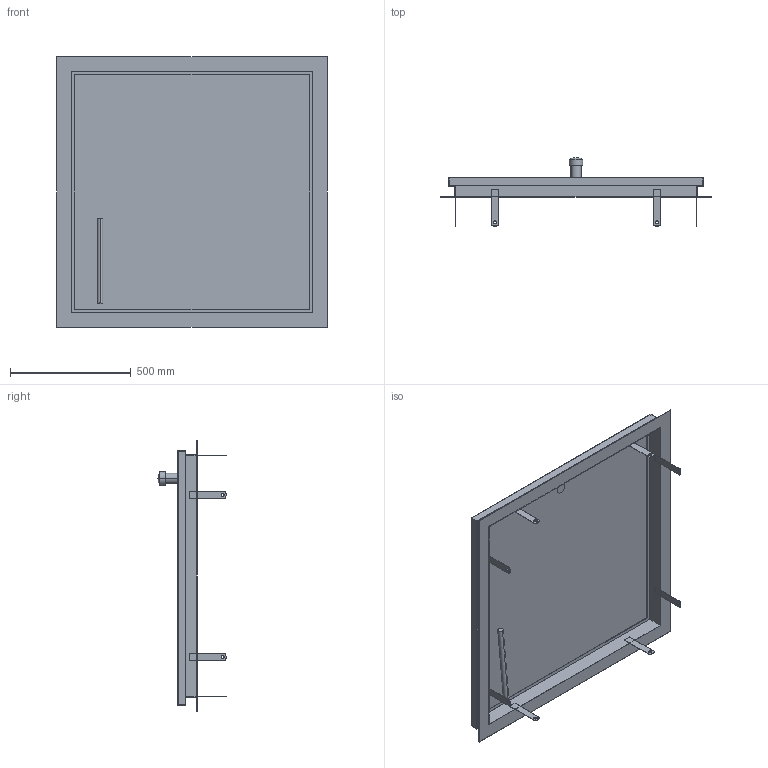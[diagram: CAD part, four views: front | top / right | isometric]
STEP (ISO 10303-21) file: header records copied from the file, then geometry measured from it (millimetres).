
FILE_DESCRIPTION((''),'2;1');
FILE_NAME('017_000105','2017-05-22T',('slc'),('HUBER SE'),'PRO/ENGINEER BY PARAMETRIC TECHNOLOGY CORPORATION, 2015280','PRO/ENGINEER BY PARAMETRIC TECHNOLOGY CORPORATION, 2015280','');
FILE_SCHEMA(('CONFIG_CONTROL_DESIGN'));
Length unit declared in the file: millimetre
Products named in the file (1): 017_000105
Bounding box: 1120 x 283 x 1120 mm (x, y, z)
Volume: 3959944.8 mm3; surface area: 3731644.1 mm2
Topology: 3 solids, 3 shells, 106 faces, 398 edges, 324 vertices
Faces by surface type: plane 74, cylinder 30, sphere 2
Entity records: 4002 total; most frequent: CARTESIAN_POINT 817, DIRECTION 625, ORIENTED_EDGE 536, VECTOR 287, LINE 287, EDGE_CURVE 268, VERTEX_POINT 173, AXIS2_PLACEMENT_3D 169
